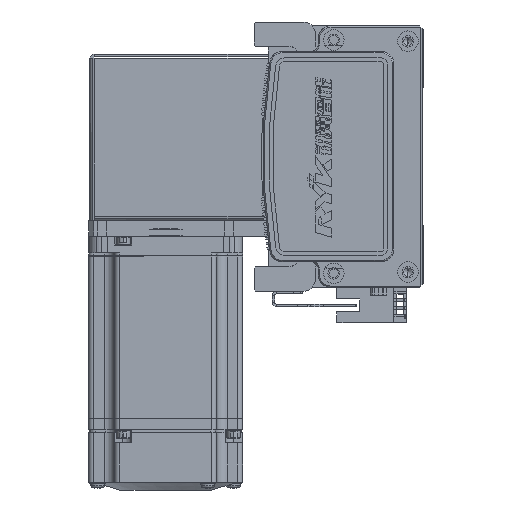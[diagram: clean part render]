
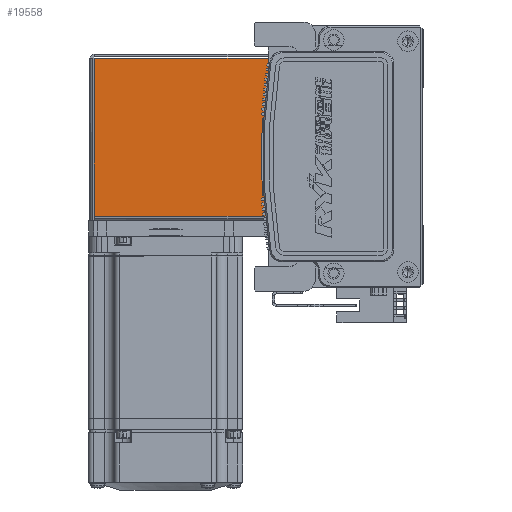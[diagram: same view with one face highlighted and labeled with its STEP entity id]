
A CAD part, left-side view. The second image highlights one B-rep face of the part: STEP entity #19558.
In plain terms, the highlighted planar face has unit normal (-1, 0, 0) as drawn and (0, 0, 1) by its records, which use the part's own axes.
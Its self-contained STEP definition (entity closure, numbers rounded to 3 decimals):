
#1308 = VECTOR ( 'NONE', #27156, 1000. ) ;
#2366 = CARTESIAN_POINT ( 'NONE',  ( -30.793, 68.5, 35. ) ) ;
#4728 = CARTESIAN_POINT ( 'NONE',  ( 30.763, 68.5, 35. ) ) ;
#5466 = PLANE ( 'NONE',  #18371 ) ;
#7987 = EDGE_CURVE ( 'NONE', #55579, #60635, #37284, .T. ) ;
#9059 = ORIENTED_EDGE ( 'NONE', *, *, #34106, .F. ) ;
#9453 = VERTEX_POINT ( 'NONE', #4728 ) ;
#11122 = DIRECTION ( 'NONE',  ( -1., 0., 0. ) ) ;
#12418 = ORIENTED_EDGE ( 'NONE', *, *, #7987, .F. ) ;
#15986 = DIRECTION ( 'NONE',  ( -1., 0., 0. ) ) ;
#16701 = CARTESIAN_POINT ( 'NONE',  ( -30.793, 0., 35. ) ) ;
#18371 = AXIS2_PLACEMENT_3D ( 'NONE', #60566, #43734, #49473 ) ;
#19406 = VECTOR ( 'NONE', #15986, 1000. ) ;
#19558 = ADVANCED_FACE ( 'NONE', ( #36840 ), #5466, .F. ) ;
#23065 = VERTEX_POINT ( 'NONE', #37812 ) ;
#24805 = LINE ( 'NONE', #49630, #41912 ) ;
#27156 = DIRECTION ( 'NONE',  ( 0., 1., 0. ) ) ;
#28156 = VECTOR ( 'NONE', #42864, 1000. ) ;
#28180 = EDGE_LOOP ( 'NONE', ( #28674, #61499, #12418, #9059 ) ) ;
#28674 = ORIENTED_EDGE ( 'NONE', *, *, #34512, .T. ) ;
#34106 = EDGE_CURVE ( 'NONE', #23065, #55579, #24805, .T. ) ;
#34512 = EDGE_CURVE ( 'NONE', #23065, #9453, #60844, .T. ) ;
#36840 = FACE_OUTER_BOUND ( 'NONE', #28180, .T. ) ;
#37284 = LINE ( 'NONE', #16701, #1308 ) ;
#37334 = CARTESIAN_POINT ( 'NONE',  ( 30.763, 0.737, 35. ) ) ;
#37812 = CARTESIAN_POINT ( 'NONE',  ( 30.763, 0.737, 35. ) ) ;
#40433 = CARTESIAN_POINT ( 'NONE',  ( -30.793, 0.737, 35. ) ) ;
#41912 = VECTOR ( 'NONE', #11122, 1000. ) ;
#42864 = DIRECTION ( 'NONE',  ( 0., 1., 0. ) ) ;
#43003 = CARTESIAN_POINT ( 'NONE',  ( 0., 68.5, 35. ) ) ;
#43734 = DIRECTION ( 'NONE',  ( 0., 0., -1. ) ) ;
#48502 = LINE ( 'NONE', #43003, #19406 ) ;
#49473 = DIRECTION ( 'NONE',  ( -1., 0., 0. ) ) ;
#49630 = CARTESIAN_POINT ( 'NONE',  ( -32.5, 0.737, 35. ) ) ;
#50519 = EDGE_CURVE ( 'NONE', #9453, #60635, #48502, .T. ) ;
#55579 = VERTEX_POINT ( 'NONE', #40433 ) ;
#60566 = CARTESIAN_POINT ( 'NONE',  ( 0., 0., 35. ) ) ;
#60635 = VERTEX_POINT ( 'NONE', #2366 ) ;
#60844 = LINE ( 'NONE', #37334, #28156 ) ;
#61499 = ORIENTED_EDGE ( 'NONE', *, *, #50519, .T. ) ;
